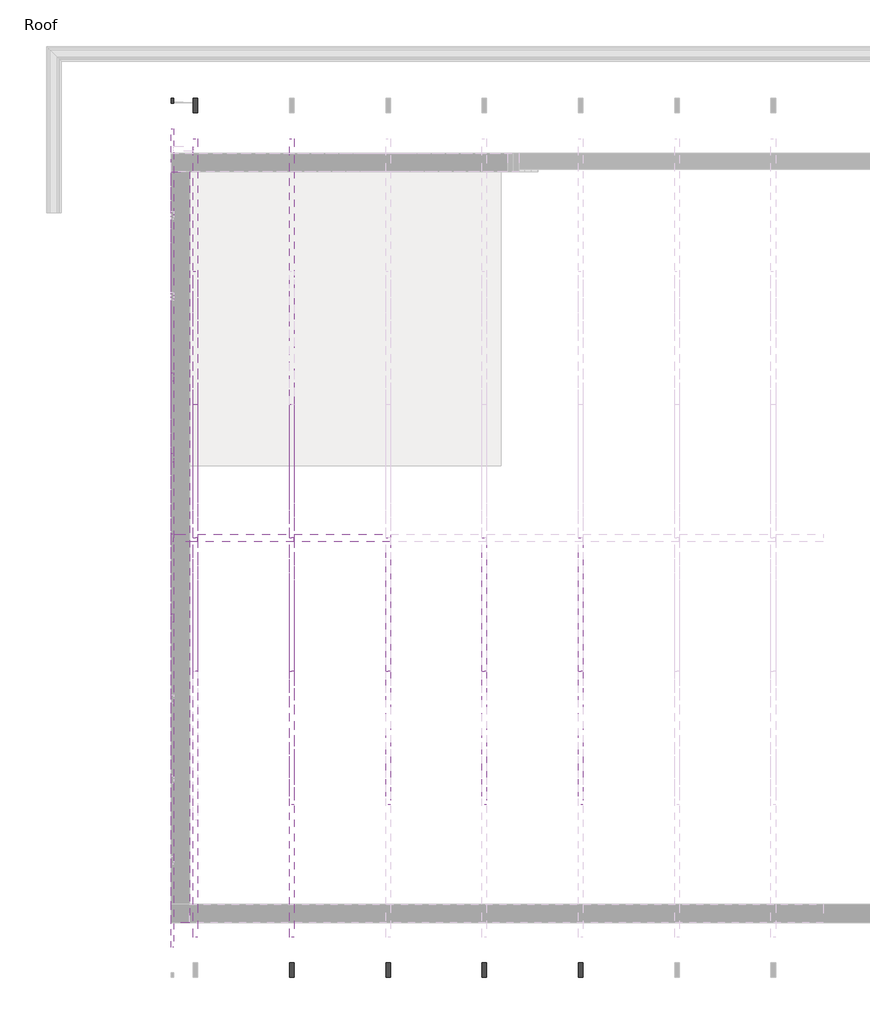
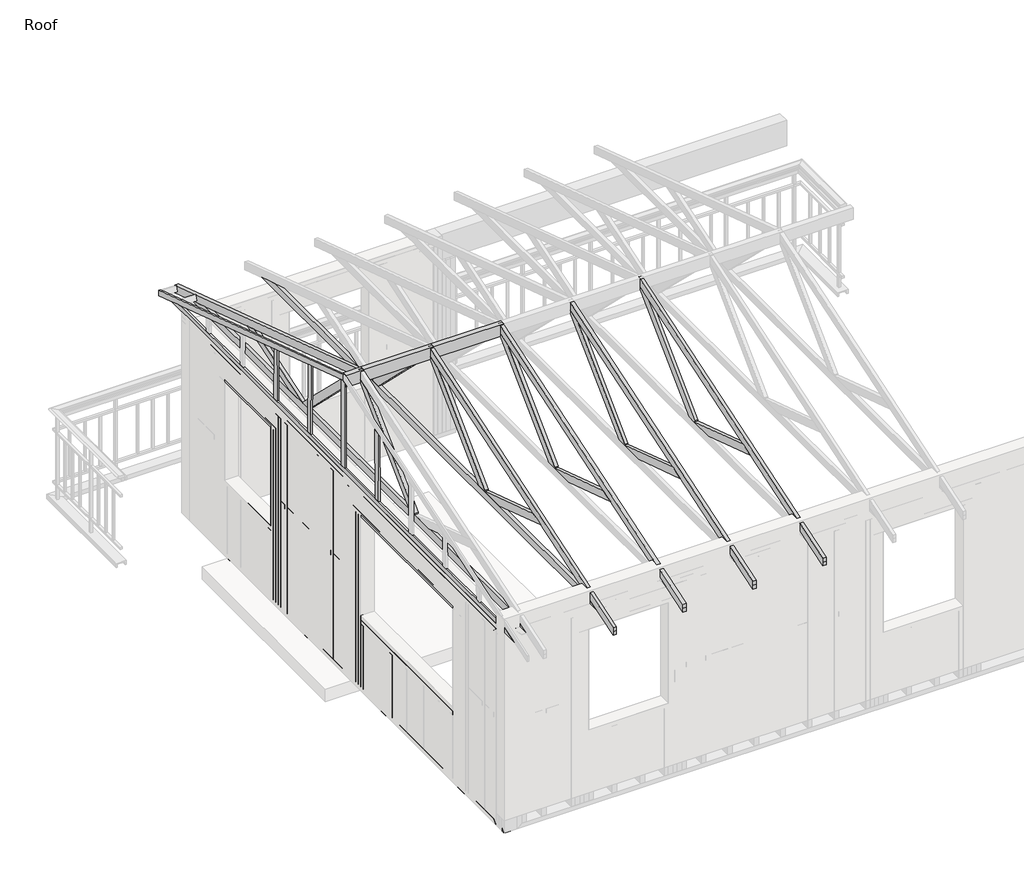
# One storey, part 3 of 6: 92 beams.
"""IFC4 building model written with IfcOpenShell, lengths in millimetres."""

from ifc_helpers import new_model, si_unit, frame, origin, place, context, project, spatial, polyline, outline, extrude, faceted_brep, transform, mapped, element, save
from components import beam_5691c770, beam_a14fae22, beam_542edc7c, experttrusspart_2_x_4_5d1fd198, experttrusspart_2_x_4_7bcd8695, beam_d06b0733, beam_b8b4d0c0, beam_1b430828, beam_c924ee9a, beam_e19e063e, beam_94f9b516, beam_558964e0, beam_b7962ac8, beam_a7231d91, beam_61d3dc7b, beam_e05c4371, beam_19b97b81, beam_7ee0b6c4, beam_9a5d82eb, beam_9d6aa0d6, beam_8976df93, beam_e5826ba7

model = new_model("IFC4")

# Units and contexts
model_context = context("Model", 3, world=origin())
ifc_project = project(units=[si_unit("LENGTHUNIT", "METRE", prefix="MILLI")], contexts=[model_context])

# Site, building, storey
site = spatial("IfcSite", under=ifc_project)
building = spatial("IfcBuilding", under=site)
storey = spatial("IfcBuildingStorey", under=building, Name="Roof", Elevation=4267.2)

# Beams
placement = place(None, origin())
element("IfcBeam", 1, ObjectType="BraceBeam : 1\" x 3\"", at=placement, inside=storey, context=model_context, shape_type="Brep", body=[
    faceted_brep([(-11529.7362948, -18302.7763369, 5454.5282605), (-11510.6862948, -18302.7763369, 5454.5282605), (-11510.6862948, -21960.3763369, 6648.3282605), (-11529.7362948, -21960.3763369, 6648.3282605), (-11510.6862948, -18302.7763369, 5487.9266302), (-11510.6862948, -18302.7763369, 5521.325), (-11510.6862948, -21960.3763369, 6715.125), (-11510.6862948, -21960.3763369, 6681.7266302), (-11529.7362948, -18302.7763369, 5521.325), (-11529.7362948, -21960.3763369, 6715.125), (-11529.7362948, -18302.7763369, 5487.9266302), (-11529.7362948, -21960.3763369, 6681.7266302)], [[[0, 1, 2, 3]], [[4, 5, 6, 7, 2, 1]], [[5, 8, 9, 6]], [[10, 0, 3, 11, 9, 8]], [[8, 5, 4, 1, 0, 10]], [[6, 9, 11, 3, 2, 7]]]),
])
element("IfcBeam", 2, ObjectType="BraceBeam : 1\" x 3\"", at=placement, inside=storey, context=model_context, shape_type="Brep", body=[
    faceted_brep([(-11510.6862948, -25364.6841988, 5537.2), (-11529.7362948, -25364.6841988, 5537.2), (-11529.7362948, -18556.068475, 5537.2), (-11510.6862948, -18556.068475, 5537.2), (-11529.7362948, -25267.4076031, 5568.95), (-11529.7362948, -25170.1310073, 5600.7), (-11529.7362948, -18750.6216665, 5600.7), (-11529.7362948, -18653.3450708, 5568.95), (-11510.6862948, -25170.1310073, 5600.7), (-11510.6862948, -18750.6216665, 5600.7), (-11510.6862948, -25267.4076031, 5568.95), (-11510.6862948, -18653.3450708, 5568.95)], [[[0, 1, 2, 3]], [[4, 5, 6, 7, 2, 1]], [[5, 8, 9, 6]], [[10, 0, 3, 11, 9, 8]], [[8, 5, 4, 1, 0, 10]], [[6, 9, 11, 3, 2, 7]]]),
])
beam_shape = beam_5691c770(model_context)
element("IfcBeam", 3, ObjectType="BraceBeam : 1\" x 3\"", at=placement, inside=storey, context=model_context, shape_type="MappedRepresentation", body=[
    mapped(beam_shape, transform((-11520.2112948, -22627.5788952, 6017.1182188), x_axis=(0.0, 0.009073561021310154, 0.9999588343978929), y_axis=(-1.0, 0.0, 0.0), z_axis=(0.0, -0.9999588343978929, 0.009073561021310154))),
])
element("IfcBeam", 4, ObjectType="BraceBeam : 1\" x 3\"", at=placement, inside=storey, context=model_context, shape_type="MappedRepresentation", body=[
    mapped(beam_shape, transform((-11520.2112948, -21293.1737787, 6017.1182188), x_axis=(0.0, -0.009073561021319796, 0.9999588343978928), y_axis=(1.0, 0.0, 0.0), z_axis=(0.0, 0.9999588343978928, 0.009073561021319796))),
])
beam_2_shape = beam_a14fae22(model_context)
element("IfcBeam", 5, ObjectType="BraceBeam : 1\" x 3\"", at=placement, inside=storey, context=model_context, shape_type="MappedRepresentation", body=[
    mapped(beam_2_shape, transform((-11520.2112948, -20621.0005721, 5907.2757582), x_axis=(0.0, -0.009347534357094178, 0.9999563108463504), y_axis=(1.0, 0.0, 0.0), z_axis=(0.0, 0.9999563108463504, 0.009347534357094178))),
])
beam_3_shape = beam_542edc7c(model_context)
element("IfcBeam", 6, ObjectType="BraceBeam : 1\" x 3\"", at=placement, inside=storey, context=model_context, shape_type="MappedRepresentation", body=[
    mapped(beam_3_shape, transform((-11520.2112948, -21959.261928, 6140.4823072), x_axis=(0.0, 0.0, 1.0), y_axis=(1.0, 1.4638300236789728e-12, 0.0), z_axis=(-1.4638300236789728e-12, 1.0, 0.0))),
])
element("IfcBeam", 7, ObjectType="ExpertTrussPart : 2 x 4", at=placement, inside=storey, context=model_context, shape_type="SweptSolid", body=[
    extrude(outline(polyline([(-21793.4464104, 6567.1254915), (-20848.8530293, 5642.2111391), (-20850.5374103, 5626.1), (-20959.4672099, 5626.1), (-21960.3763369, 6606.1568536), (-21960.3763369, 6621.6095647), (-21793.4464104, 6567.1254915)])), frame((-11346.7990766, 0.0, 0.0), z_axis=(1.0, 0.0, 0.0), x_axis=(0.0, 1.0, 0.0)), (0.0, 0.0, 1.0), 38.1),
])
element("IfcBeam", 8, ObjectType="ExpertTrussPart : 2 x 4", at=placement, inside=storey, context=model_context, shape_type="SweptSolid", body=[
    extrude(outline(polyline([(-19883.9561718, 5943.8890941), (-19812.3273277, 5920.5102353), (-19740.6984836, 5897.1313765), (-20571.0924881, 5626.1), (-20850.5374103, 5626.1), (-20850.2876203, 5628.4892463), (-19883.9561718, 5943.8890941)])), frame((-11346.7990766, 0.0, 0.0), z_axis=(1.0, 0.0, 0.0), x_axis=(0.0, 1.0, 0.0)), (0.0, 0.0, 1.0), 38.1),
])
element("IfcBeam", 9, ObjectType="ExpertTrussPart : 2 x 4", at=placement, inside=storey, context=model_context, shape_type="SweptSolid", body=[
    extrude(outline(polyline([(-22127.3062634, 6567.1254915), (-21960.3763369, 6621.6095647), (-21960.3763369, 6606.1568536), (-22961.2854639, 5626.1), (-23070.2152636, 5626.1), (-23071.8996445, 5642.2111391), (-22127.3062634, 6567.1254915)])), frame((-11346.7990766, 0.0, 0.0), z_axis=(1.0, 0.0, 0.0), x_axis=(0.0, 1.0, 0.0)), (0.0, 0.0, 1.0), 38.1),
])
element("IfcBeam", 10, ObjectType="ExpertTrussPart : 2 x 4", at=placement, inside=storey, context=model_context, shape_type="SweptSolid", body=[
    extrude(outline(polyline([(-21793.4464104, 6567.1254915), (-20848.8530293, 5642.2111391), (-20850.5374103, 5626.1), (-20959.4672099, 5626.1), (-21960.3763369, 6606.1568536), (-21960.3763369, 6621.6095647), (-21793.4464104, 6567.1254915)])), frame((-10545.0057433, 0.0, 0.0), z_axis=(1.0, 0.0, 0.0), x_axis=(0.0, 1.0, 0.0)), (0.0, 0.0, 1.0), 38.1),
])
element("IfcBeam", 11, ObjectType="ExpertTrussPart : 2 x 4", at=placement, inside=storey, context=model_context, shape_type="SweptSolid", body=[
    extrude(outline(polyline([(-22127.3062634, 6567.1254915), (-21960.3763369, 6621.6095647), (-21960.3763369, 6606.1568536), (-22961.2854639, 5626.1), (-23070.2152636, 5626.1), (-23071.8996445, 5642.2111391), (-22127.3062634, 6567.1254915)])), frame((-10545.0057433, 0.0, 0.0), z_axis=(1.0, 0.0, 0.0), x_axis=(0.0, 1.0, 0.0)), (0.0, 0.0, 1.0), 38.1),
])
element("IfcBeam", 12, ObjectType="ExpertTrussPart : 2 x 4", at=placement, inside=storey, context=model_context, shape_type="SweptSolid", body=[
    extrude(outline(polyline([(-24036.796502, 5943.8890941), (-23070.4650535, 5628.4892463), (-23070.2152636, 5626.1), (-23349.6601858, 5626.1), (-24180.0541902, 5897.1313765), (-24108.4253461, 5920.5102353), (-24036.796502, 5943.8890941)])), frame((-10545.0057433, 0.0, 0.0), z_axis=(1.0, 0.0, 0.0), x_axis=(0.0, 1.0, 0.0)), (0.0, 0.0, 1.0), 38.1),
])
element("IfcBeam", 13, ObjectType="ExpertTrussPart : 2 x 4", at=placement, inside=storey, context=model_context, shape_type="SweptSolid", body=[
    extrude(outline(polyline([(-22127.3062634, 6567.1254915), (-21960.3763369, 6621.6095647), (-21960.3763369, 6606.1568536), (-22961.2854639, 5626.1), (-23070.2152636, 5626.1), (-23071.8996445, 5642.2111391), (-22127.3062634, 6567.1254915)])), frame((-9743.2124099, 0.0, 0.0), z_axis=(1.0, 0.0, 0.0), x_axis=(0.0, 1.0, 0.0)), (0.0, 0.0, 1.0), 38.1),
])
element("IfcBeam", 14, ObjectType="ExpertTrussPart : 2 x 4", at=placement, inside=storey, context=model_context, shape_type="SweptSolid", body=[
    extrude(outline(polyline([(-24036.796502, 5943.8890941), (-23070.4650535, 5628.4892463), (-23070.2152636, 5626.1), (-23349.6601858, 5626.1), (-24180.0541902, 5897.1313765), (-24108.4253461, 5920.5102353), (-24036.796502, 5943.8890941)])), frame((-9743.2124099, 0.0, 0.0), z_axis=(1.0, 0.0, 0.0), x_axis=(0.0, 1.0, 0.0)), (0.0, 0.0, 1.0), 38.1),
])
element("IfcBeam", 15, ObjectType="ExpertTrussPart : 2 x 4", at=placement, inside=storey, context=model_context, shape_type="SweptSolid", body=[
    extrude(outline(polyline([(-22127.3062634, 6567.1254915), (-21960.3763369, 6621.6095647), (-21960.3763369, 6606.1568536), (-22961.2854639, 5626.1), (-23070.2152636, 5626.1), (-23071.8996445, 5642.2111391), (-22127.3062634, 6567.1254915)])), frame((-8941.4190766, 0.0, 0.0), z_axis=(1.0, 0.0, 0.0), x_axis=(0.0, 1.0, 0.0)), (0.0, 0.0, 1.0), 38.1),
])
element("IfcBeam", 16, ObjectType="ExpertTrussPart : 2 x 4", at=placement, inside=storey, context=model_context, shape_type="SweptSolid", body=[
    extrude(outline(polyline([(-24036.796502, 5943.8890941), (-23070.4650535, 5628.4892463), (-23070.2152636, 5626.1), (-23349.6601858, 5626.1), (-24180.0541902, 5897.1313765), (-24108.4253461, 5920.5102353), (-24036.796502, 5943.8890941)])), frame((-8941.4190766, 0.0, 0.0), z_axis=(1.0, 0.0, 0.0), x_axis=(0.0, 1.0, 0.0)), (0.0, 0.0, 1.0), 38.1),
])
element("IfcBeam", 17, ObjectType="ExpertTrussPart : 2 x 4", at=placement, inside=storey, context=model_context, shape_type="SweptSolid", body=[
    extrude(outline(polyline([(-22127.3062634, 6567.1254915), (-21960.3763369, 6621.6095647), (-21960.3763369, 6606.1568536), (-22961.2854639, 5626.1), (-23070.2152636, 5626.1), (-23071.8996445, 5642.2111391), (-22127.3062634, 6567.1254915)])), frame((-8139.6257433, 0.0, 0.0), z_axis=(1.0, 0.0, 0.0), x_axis=(0.0, 1.0, 0.0)), (0.0, 0.0, 1.0), 38.1),
])
element("IfcBeam", 18, ObjectType="ExpertTrussPart : 2 x 4", at=placement, inside=storey, context=model_context, shape_type="SweptSolid", body=[
    extrude(outline(polyline([(-24036.796502, 5943.8890941), (-23070.4650535, 5628.4892463), (-23070.2152636, 5626.1), (-23349.6601858, 5626.1), (-24180.0541902, 5897.1313765), (-24108.4253461, 5920.5102353), (-24036.796502, 5943.8890941)])), frame((-8139.6257433, 0.0, 0.0), z_axis=(1.0, 0.0, 0.0), x_axis=(0.0, 1.0, 0.0)), (0.0, 0.0, 1.0), 38.1),
])
element("IfcBeam", 19, ObjectType="ExpertTrussPart : 2 x 4", at=placement, inside=storey, context=model_context, shape_type="SweptSolid", body=[
    extrude(outline(polyline([(-21793.4464104, 6567.1254915), (-20848.8530293, 5642.2111391), (-20850.5374103, 5626.1), (-20959.4672099, 5626.1), (-21960.3763369, 6606.1568536), (-21960.3763369, 6621.6095647), (-21793.4464104, 6567.1254915)])), frame((-11346.7990766, 0.0, 0.0), z_axis=(1.0, 0.0, 0.0), x_axis=(0.0, 1.0, 0.0)), (0.0, 0.0, 1.0), 38.1),
])
element("IfcBeam", 20, ObjectType="ExpertTrussPart : 2 x 4", at=placement, inside=storey, context=model_context, shape_type="SweptSolid", body=[
    extrude(outline(polyline([(-19883.9561718, 5943.8890941), (-19812.3273277, 5920.5102353), (-19740.6984836, 5897.1313765), (-20571.0924881, 5626.1), (-20850.5374103, 5626.1), (-20850.2876203, 5628.4892463), (-19883.9561718, 5943.8890941)])), frame((-11346.7990766, 0.0, 0.0), z_axis=(1.0, 0.0, 0.0), x_axis=(0.0, 1.0, 0.0)), (0.0, 0.0, 1.0), 38.1),
])
element("IfcBeam", 21, ObjectType="ExpertTrussPart : 2 x 4", at=placement, inside=storey, context=model_context, shape_type="SweptSolid", body=[
    extrude(outline(polyline([(-22127.3062634, 6567.1254915), (-21960.3763369, 6621.6095647), (-21960.3763369, 6606.1568536), (-22961.2854639, 5626.1), (-23070.2152636, 5626.1), (-23071.8996445, 5642.2111391), (-22127.3062634, 6567.1254915)])), frame((-11346.7990766, 0.0, 0.0), z_axis=(1.0, 0.0, 0.0), x_axis=(0.0, 1.0, 0.0)), (0.0, 0.0, 1.0), 38.1),
])
element("IfcBeam", 22, ObjectType="ExpertTrussPart : 2 x 4", at=placement, inside=storey, context=model_context, shape_type="SweptSolid", body=[
    extrude(outline(polyline([(-21793.4464104, 6567.1254915), (-20848.8530293, 5642.2111391), (-20850.5374103, 5626.1), (-20959.4672099, 5626.1), (-21960.3763369, 6606.1568536), (-21960.3763369, 6621.6095647), (-21793.4464104, 6567.1254915)])), frame((-10545.0057433, 0.0, 0.0), z_axis=(1.0, 0.0, 0.0), x_axis=(0.0, 1.0, 0.0)), (0.0, 0.0, 1.0), 38.1),
])
element("IfcBeam", 23, ObjectType="ExpertTrussPart : 2 x 4", at=placement, inside=storey, context=model_context, shape_type="SweptSolid", body=[
    extrude(outline(polyline([(-22127.3062634, 6567.1254915), (-21960.3763369, 6621.6095647), (-21960.3763369, 6606.1568536), (-22961.2854639, 5626.1), (-23070.2152636, 5626.1), (-23071.8996445, 5642.2111391), (-22127.3062634, 6567.1254915)])), frame((-10545.0057433, 0.0, 0.0), z_axis=(1.0, 0.0, 0.0), x_axis=(0.0, 1.0, 0.0)), (0.0, 0.0, 1.0), 38.1),
])
element("IfcBeam", 24, ObjectType="ExpertTrussPart : 2 x 4", at=placement, inside=storey, context=model_context, shape_type="SweptSolid", body=[
    extrude(outline(polyline([(-24036.796502, 5943.8890941), (-23070.4650535, 5628.4892463), (-23070.2152636, 5626.1), (-23349.6601858, 5626.1), (-24180.0541902, 5897.1313765), (-24108.4253461, 5920.5102353), (-24036.796502, 5943.8890941)])), frame((-10545.0057433, 0.0, 0.0), z_axis=(1.0, 0.0, 0.0), x_axis=(0.0, 1.0, 0.0)), (0.0, 0.0, 1.0), 38.1),
])
element("IfcBeam", 25, ObjectType="ExpertTrussPart : 2 x 4", at=placement, inside=storey, context=model_context, shape_type="SweptSolid", body=[
    extrude(outline(polyline([(-22127.3062634, 6567.1254915), (-21960.3763369, 6621.6095647), (-21960.3763369, 6606.1568536), (-22961.2854639, 5626.1), (-23070.2152636, 5626.1), (-23071.8996445, 5642.2111391), (-22127.3062634, 6567.1254915)])), frame((-9743.2124099, 0.0, 0.0), z_axis=(1.0, 0.0, 0.0), x_axis=(0.0, 1.0, 0.0)), (0.0, 0.0, 1.0), 38.1),
])
element("IfcBeam", 26, ObjectType="ExpertTrussPart : 2 x 4", at=placement, inside=storey, context=model_context, shape_type="SweptSolid", body=[
    extrude(outline(polyline([(-24036.796502, 5943.8890941), (-23070.4650535, 5628.4892463), (-23070.2152636, 5626.1), (-23349.6601858, 5626.1), (-24180.0541902, 5897.1313765), (-24108.4253461, 5920.5102353), (-24036.796502, 5943.8890941)])), frame((-9743.2124099, 0.0, 0.0), z_axis=(1.0, 0.0, 0.0), x_axis=(0.0, 1.0, 0.0)), (0.0, 0.0, 1.0), 38.1),
])
element("IfcBeam", 27, ObjectType="ExpertTrussPart : 2 x 4", at=placement, inside=storey, context=model_context, shape_type="SweptSolid", body=[
    extrude(outline(polyline([(-22127.3062634, 6567.1254915), (-21960.3763369, 6621.6095647), (-21960.3763369, 6606.1568536), (-22961.2854639, 5626.1), (-23070.2152636, 5626.1), (-23071.8996445, 5642.2111391), (-22127.3062634, 6567.1254915)])), frame((-8941.4190766, 0.0, 0.0), z_axis=(1.0, 0.0, 0.0), x_axis=(0.0, 1.0, 0.0)), (0.0, 0.0, 1.0), 38.1),
])
element("IfcBeam", 28, ObjectType="ExpertTrussPart : 2 x 4", at=placement, inside=storey, context=model_context, shape_type="SweptSolid", body=[
    extrude(outline(polyline([(-24036.796502, 5943.8890941), (-23070.4650535, 5628.4892463), (-23070.2152636, 5626.1), (-23349.6601858, 5626.1), (-24180.0541902, 5897.1313765), (-24108.4253461, 5920.5102353), (-24036.796502, 5943.8890941)])), frame((-8941.4190766, 0.0, 0.0), z_axis=(1.0, 0.0, 0.0), x_axis=(0.0, 1.0, 0.0)), (0.0, 0.0, 1.0), 38.1),
])
element("IfcBeam", 29, ObjectType="ExpertTrussPart : 2 x 4", at=placement, inside=storey, context=model_context, shape_type="SweptSolid", body=[
    extrude(outline(polyline([(-22127.3062634, 6567.1254915), (-21960.3763369, 6621.6095647), (-21960.3763369, 6606.1568536), (-22961.2854639, 5626.1), (-23070.2152636, 5626.1), (-23071.8996445, 5642.2111391), (-22127.3062634, 6567.1254915)])), frame((-8139.6257433, 0.0, 0.0), z_axis=(1.0, 0.0, 0.0), x_axis=(0.0, 1.0, 0.0)), (0.0, 0.0, 1.0), 38.1),
])
element("IfcBeam", 30, ObjectType="ExpertTrussPart : 2 x 4", at=placement, inside=storey, context=model_context, shape_type="SweptSolid", body=[
    extrude(outline(polyline([(-24036.796502, 5943.8890941), (-23070.4650535, 5628.4892463), (-23070.2152636, 5626.1), (-23349.6601858, 5626.1), (-24180.0541902, 5897.1313765), (-24108.4253461, 5920.5102353), (-24036.796502, 5943.8890941)])), frame((-8139.6257433, 0.0, 0.0), z_axis=(1.0, 0.0, 0.0), x_axis=(0.0, 1.0, 0.0)), (0.0, 0.0, 1.0), 38.1),
])
experttrusspart_2_x_4_shape = experttrusspart_2_x_4_5d1fd198(model_context)
element("IfcBeam", 31, ObjectType="ExpertTrussPart : 2 x 4", at=placement, inside=storey, context=model_context, shape_type="MappedRepresentation", body=[
    mapped(experttrusspart_2_x_4_shape, transform((-11327.7490766, -21960.3763369, 5537.2), x_axis=(0.0, -1.0, 0.0), y_axis=(1.0, 0.0, 0.0), z_axis=(0.0, 0.0, 1.0))),
])
element("IfcBeam", 32, ObjectType="ExpertTrussPart : 2 x 4", at=placement, inside=storey, context=model_context, shape_type="MappedRepresentation", body=[
    mapped(experttrusspart_2_x_4_shape, transform((-10525.9557433, -21960.3763369, 5537.2), x_axis=(0.0, -1.0, 0.0), y_axis=(1.0, 0.0, 0.0), z_axis=(0.0, 0.0, 1.0))),
])
element("IfcBeam", 33, ObjectType="ExpertTrussPart : 2 x 4", at=placement, inside=storey, context=model_context, shape_type="MappedRepresentation", body=[
    mapped(experttrusspart_2_x_4_shape, transform((-11327.7490766, -21960.3763369, 5537.2), x_axis=(0.0, -1.0, 0.0), y_axis=(1.0, 0.0, 0.0), z_axis=(0.0, 0.0, 1.0))),
])
element("IfcBeam", 34, ObjectType="ExpertTrussPart : 2 x 4", at=placement, inside=storey, context=model_context, shape_type="MappedRepresentation", body=[
    mapped(experttrusspart_2_x_4_shape, transform((-10525.9557433, -21960.3763369, 5537.2), x_axis=(0.0, -1.0, 0.0), y_axis=(1.0, 0.0, 0.0), z_axis=(0.0, 0.0, 1.0))),
])
experttrusspart_2_x_4_2_shape = experttrusspart_2_x_4_7bcd8695(model_context)
element("IfcBeam", 35, ObjectType="ExpertTrussPart : 2 x 4", at=placement, inside=storey, context=model_context, shape_type="MappedRepresentation", body=[
    mapped(experttrusspart_2_x_4_2_shape, transform((-11327.7490766, -20145.3682843, 6029.2111031), x_axis=(0.0, 0.950645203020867, -0.3102800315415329), y_axis=(-1.0, 0.0, 0.0), z_axis=(0.0, 0.3102800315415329, 0.950645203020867))),
])
element("IfcBeam", 36, ObjectType="ExpertTrussPart : 2 x 4", at=placement, inside=storey, context=model_context, shape_type="MappedRepresentation", body=[
    mapped(experttrusspart_2_x_4_2_shape, transform((-10525.9557433, -23775.3843895, 6029.2111031), x_axis=(0.0, -0.9506452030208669, -0.310280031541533), y_axis=(1.0, 0.0, 0.0), z_axis=(0.0, -0.31028003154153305, 0.950645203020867))),
])
element("IfcBeam", 37, ObjectType="ExpertTrussPart : 2 x 4", at=placement, inside=storey, context=model_context, shape_type="MappedRepresentation", body=[
    mapped(experttrusspart_2_x_4_2_shape, transform((-9724.1624099, -23775.3843895, 6029.2111031), x_axis=(0.0, -0.9506452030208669, -0.310280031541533), y_axis=(1.0, 0.0, 0.0), z_axis=(0.0, -0.31028003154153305, 0.950645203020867))),
])
element("IfcBeam", 38, ObjectType="ExpertTrussPart : 2 x 4", at=placement, inside=storey, context=model_context, shape_type="MappedRepresentation", body=[
    mapped(experttrusspart_2_x_4_2_shape, transform((-8922.3690766, -23775.3843895, 6029.2111031), x_axis=(0.0, -0.9506452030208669, -0.310280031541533), y_axis=(1.0, 0.0, 0.0), z_axis=(0.0, -0.31028003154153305, 0.950645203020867))),
])
element("IfcBeam", 39, ObjectType="ExpertTrussPart : 2 x 4", at=placement, inside=storey, context=model_context, shape_type="MappedRepresentation", body=[
    mapped(experttrusspart_2_x_4_2_shape, transform((-8120.5757433, -23775.3843895, 6029.2111031), x_axis=(0.0, -0.9506452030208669, -0.310280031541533), y_axis=(1.0, 0.0, 0.0), z_axis=(0.0, -0.31028003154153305, 0.950645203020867))),
])
element("IfcBeam", 40, ObjectType="ExpertTrussPart : 2 x 4", at=placement, inside=storey, context=model_context, shape_type="MappedRepresentation", body=[
    mapped(experttrusspart_2_x_4_2_shape, transform((-11327.7490766, -20145.3682843, 6029.2111031), x_axis=(0.0, 0.950645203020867, -0.3102800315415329), y_axis=(-1.0, 0.0, 0.0), z_axis=(0.0, 0.3102800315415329, 0.950645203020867))),
])
element("IfcBeam", 41, ObjectType="ExpertTrussPart : 2 x 4", at=placement, inside=storey, context=model_context, shape_type="MappedRepresentation", body=[
    mapped(experttrusspart_2_x_4_2_shape, transform((-10525.9557433, -23775.3843895, 6029.2111031), x_axis=(0.0, -0.9506452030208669, -0.310280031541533), y_axis=(1.0, 0.0, 0.0), z_axis=(0.0, -0.31028003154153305, 0.950645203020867))),
])
element("IfcBeam", 42, ObjectType="ExpertTrussPart : 2 x 4", at=placement, inside=storey, context=model_context, shape_type="MappedRepresentation", body=[
    mapped(experttrusspart_2_x_4_2_shape, transform((-9724.1624099, -23775.3843895, 6029.2111031), x_axis=(0.0, -0.9506452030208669, -0.310280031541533), y_axis=(1.0, 0.0, 0.0), z_axis=(0.0, -0.31028003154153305, 0.950645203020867))),
])
element("IfcBeam", 43, ObjectType="ExpertTrussPart : 2 x 4", at=placement, inside=storey, context=model_context, shape_type="MappedRepresentation", body=[
    mapped(experttrusspart_2_x_4_2_shape, transform((-8922.3690766, -23775.3843895, 6029.2111031), x_axis=(0.0, -0.9506452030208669, -0.310280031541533), y_axis=(1.0, 0.0, 0.0), z_axis=(0.0, -0.31028003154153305, 0.950645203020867))),
])
element("IfcBeam", 44, ObjectType="ExpertTrussPart : 2 x 4", at=placement, inside=storey, context=model_context, shape_type="MappedRepresentation", body=[
    mapped(experttrusspart_2_x_4_2_shape, transform((-8120.5757433, -23775.3843895, 6029.2111031), x_axis=(0.0, -0.9506452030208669, -0.310280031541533), y_axis=(1.0, 0.0, 0.0), z_axis=(0.0, -0.31028003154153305, 0.950645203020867))),
])
element("IfcBeam", 45, ObjectType="ExpertTrussPart : 2 x 4", at=placement, inside=storey, context=model_context, shape_type="MappedRepresentation", body=[
    mapped(experttrusspart_2_x_4_2_shape, transform((-11327.7490766, -23775.3843895, 6029.2111031), x_axis=(0.0, -0.9506452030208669, -0.310280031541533), y_axis=(1.0, 0.0, 0.0), z_axis=(0.0, -0.31028003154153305, 0.950645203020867))),
])
element("IfcBeam", 46, ObjectType="Rectangular(Timber)-Beam : Timber_0' - 1 31/32\" x0' - 5 29/32\" _ContentGenerator", at=placement, inside=storey, context=model_context, shape_type="SweptSolid", body=[
    extrude(outline(polyline([(-18912.3863369, 3149.6), (-18912.3863369, 3098.8), (-25160.7813369, 3098.8), (-25109.9813369, 3149.6), (-18912.3863369, 3149.6)])), frame((-11529.6790766, 0.0, 0.0), z_axis=(1.0, 0.0, 0.0), x_axis=(0.0, 1.0, 0.0)), (0.0, 0.0, 1.0), 152.4),
])
element("IfcBeam", 47, ObjectType="Rectangular(Timber)-Beam : Timber_0' - 1 31/32\" x0' - 5 29/32\" _ContentGenerator", at=placement, inside=storey, context=model_context, shape_type="SweptSolid", body=[
    extrude(outline(polyline([(-18963.1863369, 3149.6), (-18963.1863369, 3098.8), (-25008.3863369, 3098.8), (-24957.5863369, 3149.6), (-18963.1863369, 3149.6)])), frame((-11529.6790766, 0.0, 0.0), z_axis=(1.0, 0.0, 0.0), x_axis=(0.0, 1.0, 0.0)), (0.0, 0.0, 1.0), 152.4),
])
element("IfcBeam", 48, ObjectType="Rectangular(Timber)-Beam : Timber_0' - 1 31/32\" x0' - 5 29/32\" _ContentGenerator", at=placement, inside=storey, context=model_context, shape_type="SweptSolid", body=[
    extrude(outline(polyline([(-24957.5863369, 5435.6), (-25008.3863369, 5486.4), (-18912.3763369, 5486.4), (-18912.3763369, 5435.6), (-24957.5863369, 5435.6)])), frame((-11529.6790766, 0.0, 0.0), z_axis=(1.0, 0.0, 0.0), x_axis=(0.0, 1.0, 0.0)), (0.0, 0.0, 1.0), 152.4),
])
element("IfcBeam", 49, ObjectType="Rectangular(Timber)-Beam : Timber_0' - 1 31/32\" x0' - 5 29/32\" _ContentGenerator", at=placement, inside=storey, context=model_context, shape_type="SweptSolid", body=[
    extrude(outline(polyline([(-11377.2790766, -22112.7863369), (-11377.2790766, -22163.5863369), (-11529.6790766, -22163.5863369), (-11529.6790766, -22112.7863369), (-11377.2790766, -22112.7863369)])), frame((0.0, 0.0, 3149.6), z_axis=(0.0, 0.0, 1.0), x_axis=(1.0, 0.0, 0.0)), (0.0, 0.0, 1.0), 2286.0),
])
beam_4_shape = beam_d06b0733(model_context)
element("IfcBeam", 50, ObjectType="Rectangular(Timber)-Beam : Timber_0' - 1 31/32\" x0' - 5 29/32\" _ContentGenerator", at=placement, inside=storey, context=model_context, shape_type="MappedRepresentation", body=[
    mapped(beam_4_shape, transform((-11453.4790766, -20550.6863369, 4178.3), x_axis=(0.0, 0.0, 1.0), y_axis=(0.0, -1.0, 0.0), z_axis=(1.0, 0.0, 0.0))),
])
element("IfcBeam", 51, ObjectType="Rectangular(Timber)-Beam : Timber_0' - 1 31/32\" x0' - 5 29/32\" _ContentGenerator", at=placement, inside=storey, context=model_context, shape_type="MappedRepresentation", body=[
    mapped(beam_4_shape, transform((-11453.4790766, -22290.5863369, 4178.3), x_axis=(0.0, 0.0, 1.0), y_axis=(0.0, -1.0, 0.0), z_axis=(1.0, 0.0, 0.0))),
])
element("IfcBeam", 52, ObjectType="Rectangular(Timber)-Beam : Timber_0' - 1 31/32\" x0' - 5 29/32\" _ContentGenerator", at=placement, inside=storey, context=model_context, shape_type="MappedRepresentation", body=[
    mapped(beam_4_shape, transform((-11453.4790766, -20601.4863369, 4178.3), x_axis=(0.0, 0.0, 1.0), y_axis=(0.0, -1.0, 0.0), z_axis=(1.0, 0.0, 0.0))),
])
element("IfcBeam", 53, ObjectType="Rectangular(Timber)-Beam : Timber_0' - 1 31/32\" x0' - 5 29/32\" _ContentGenerator", at=placement, inside=storey, context=model_context, shape_type="MappedRepresentation", body=[
    mapped(beam_4_shape, transform((-11453.4790766, -22239.7863369, 4178.3), x_axis=(0.0, 0.0, 1.0), y_axis=(0.0, -1.0, 0.0), z_axis=(1.0, 0.0, 0.0))),
])
element("IfcBeam", 54, ObjectType="Rectangular(Timber)-Beam : Timber_0' - 1 31/32\" x0' - 5 29/32\" _ContentGenerator", at=placement, inside=storey, context=model_context, shape_type="MappedRepresentation", body=[
    mapped(beam_4_shape, transform((-11453.4790766, -22188.9863369, 4178.3), x_axis=(0.0, 0.0, 1.0), y_axis=(0.0, -1.0, 0.0), z_axis=(1.0, 0.0, 0.0))),
])
beam_5_shape = beam_b8b4d0c0(model_context)
element("IfcBeam", 55, ObjectType="Rectangular(Timber)-Beam : Timber_0' - 1 31/32\" x0' - 5 29/32\" _ContentGenerator", at=placement, inside=storey, context=model_context, shape_type="MappedRepresentation", body=[
    mapped(beam_5_shape, transform((-11453.4790766, -20068.0863369, 5232.4), x_axis=(0.0, -1.0000000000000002, 0.0), y_axis=(0.0, 0.0, -1.0000000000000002), z_axis=(1.0000000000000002, 0.0, 0.0))),
])
beam_6_shape = beam_1b430828(model_context)
element("IfcBeam", 56, ObjectType="Rectangular(Timber)-Beam : Timber_0' - 1 31/32\" x0' - 5 29/32\" _ContentGenerator", at=placement, inside=storey, context=model_context, shape_type="MappedRepresentation", body=[
    mapped(beam_6_shape, transform((-11453.4790766, -20779.2813372, 4413.25), x_axis=(0.0, -1.0000000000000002, 0.0), y_axis=(0.0, 0.0, -1.0000000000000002), z_axis=(1.0000000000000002, 0.0, 0.0))),
])
beam_7_shape = beam_c924ee9a(model_context)
element("IfcBeam", 57, ObjectType="Rectangular(Timber)-Beam : Timber_0' - 1 31/32\" x0' - 5 29/32\" _ContentGenerator", at=placement, inside=storey, context=model_context, shape_type="MappedRepresentation", body=[
    mapped(beam_7_shape, transform((-11453.4790766, -22081.0313369, 4413.25), x_axis=(0.0, -1.0000000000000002, 0.0), y_axis=(0.0, 0.0, -1.0000000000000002), z_axis=(1.0000000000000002, 0.0, 0.0))),
])
beam_8_shape = beam_e19e063e(model_context)
element("IfcBeam", 58, ObjectType="Rectangular(Timber)-Beam : Timber_0' - 1 31/32\" x0' - 5 29/32\" _ContentGenerator", at=placement, inside=storey, context=model_context, shape_type="MappedRepresentation", body=[
    mapped(beam_8_shape, transform((-11453.4790766, -23230.3913369, 5232.4), x_axis=(0.0, -1.0000000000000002, 0.0), y_axis=(0.0, 0.0, -1.0000000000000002), z_axis=(1.0000000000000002, 0.0, 0.0))),
])
beam_9_shape = beam_94f9b516(model_context)
element("IfcBeam", 59, ObjectType="Rectangular(Timber)-Beam : Timber_0' - 1 31/32\" x0' - 5 29/32\" _ContentGenerator", at=placement, inside=storey, context=model_context, shape_type="MappedRepresentation", body=[
    mapped(beam_9_shape, transform((-11453.4790766, -22341.3863369, 3530.6), x_axis=(0.0, 0.0, 1.0), y_axis=(0.0, -1.0, 0.0), z_axis=(1.0, 0.0, 0.0))),
])
element("IfcBeam", 60, ObjectType="Rectangular(Timber)-Beam : Timber_0' - 1 31/32\" x0' - 5 29/32\" _ContentGenerator", at=placement, inside=storey, context=model_context, shape_type="MappedRepresentation", body=[
    mapped(beam_9_shape, transform((-11453.4790766, -22612.3096702, 3530.6), x_axis=(0.0, 0.0, 1.0), y_axis=(0.0, -1.0, 0.0), z_axis=(1.0, 0.0, 0.0))),
])
element("IfcBeam", 61, ObjectType="Rectangular(Timber)-Beam : Timber_0' - 1 31/32\" x0' - 5 29/32\" _ContentGenerator", at=placement, inside=storey, context=model_context, shape_type="MappedRepresentation", body=[
    mapped(beam_9_shape, transform((-11453.4790766, -22917.1130036, 3530.6), x_axis=(0.0, 0.0, 1.0), y_axis=(0.0, -1.0, 0.0), z_axis=(1.0, 0.0, 0.0))),
])
beam_10_shape = beam_558964e0(model_context)
element("IfcBeam", 62, ObjectType="Rectangular(Timber)-Beam : Timber_0' - 1 31/32\" x0' - 5 29/32\" _ContentGenerator", at=placement, inside=storey, context=model_context, shape_type="MappedRepresentation", body=[
    mapped(beam_10_shape, transform((-11453.4790766, -20830.0763369, 4292.6), x_axis=(0.0, 0.0, 1.0), y_axis=(0.0, -1.0, 0.0), z_axis=(1.0, 0.0, 0.0))),
])
element("IfcBeam", 63, ObjectType="Rectangular(Timber)-Beam : Timber_0' - 1 31/32\" x0' - 5 29/32\" _ContentGenerator", at=placement, inside=storey, context=model_context, shape_type="MappedRepresentation", body=[
    mapped(beam_10_shape, transform((-11453.4790766, -21134.8763369, 4292.6), x_axis=(0.0, 0.0, 1.0), y_axis=(0.0, -1.0, 0.0), z_axis=(1.0, 0.0, 0.0))),
])
element("IfcBeam", 64, ObjectType="Rectangular(Timber)-Beam : Timber_0' - 1 31/32\" x0' - 5 29/32\" _ContentGenerator", at=placement, inside=storey, context=model_context, shape_type="MappedRepresentation", body=[
    mapped(beam_10_shape, transform((-11453.4790766, -21439.6763369, 4292.6), x_axis=(0.0, 0.0, 1.0), y_axis=(0.0, -1.0, 0.0), z_axis=(1.0, 0.0, 0.0))),
])
element("IfcBeam", 65, ObjectType="Rectangular(Timber)-Beam : Timber_0' - 1 31/32\" x0' - 5 29/32\" _ContentGenerator", at=placement, inside=storey, context=model_context, shape_type="MappedRepresentation", body=[
    mapped(beam_10_shape, transform((-11453.4790766, -21744.4763369, 4292.6), x_axis=(0.0, 0.0, 1.0), y_axis=(0.0, -1.0, 0.0), z_axis=(1.0, 0.0, 0.0))),
])
element("IfcBeam", 66, ObjectType="Rectangular(Timber)-Beam : Timber_0' - 1 31/32\" x0' - 5 29/32\" _ContentGenerator", at=placement, inside=storey, context=model_context, shape_type="MappedRepresentation", body=[
    mapped(beam_10_shape, transform((-11453.4790766, -22049.2763369, 4292.6), x_axis=(0.0, 0.0, 1.0), y_axis=(0.0, -1.0, 0.0), z_axis=(1.0, 0.0, 0.0))),
])
element("IfcBeam", 67, ObjectType="Rectangular(Timber)-Beam : Timber_0' - 1 31/32\" x0' - 5 29/32\" _ContentGenerator", at=placement, inside=storey, context=model_context, shape_type="MappedRepresentation", body=[
    mapped(beam_10_shape, transform((-11453.4790766, -20652.2863369, 4292.6), x_axis=(0.0, 0.0, 1.0), y_axis=(0.0, -1.0, 0.0), z_axis=(1.0, 0.0, 0.0))),
])
element("IfcBeam", 68, ObjectType="Rectangular(Timber)-Beam : Timber_0' - 1 31/32\" x0' - 5 29/32\" _ContentGenerator", at=placement, inside=storey, context=model_context, shape_type="MappedRepresentation", body=[
    mapped(beam_10_shape, transform((-11453.4790766, -20703.0863375, 4292.6), x_axis=(0.0, 0.0, 1.0), y_axis=(0.0, -1.0, 0.0), z_axis=(1.0, 0.0, 0.0))),
])
beam_11_shape = beam_b7962ac8(model_context)
element("IfcBeam", 69, ObjectType="Rectangular(Timber)-Beam : Timber_0' - 1 31/32\" x0' - 5 29/32\" _ContentGenerator", at=placement, inside=storey, context=model_context, shape_type="MappedRepresentation", body=[
    mapped(beam_11_shape, transform((-11453.4790766, -20228.9430036, 3556.0), x_axis=(0.0, 0.0, 1.0), y_axis=(0.0, -1.0, 0.0), z_axis=(1.0, 0.0, 0.0))),
])
element("IfcBeam", 70, ObjectType="Rectangular(Timber)-Beam : Timber_0' - 1 31/32\" x0' - 5 29/32\" _ContentGenerator", at=placement, inside=storey, context=model_context, shape_type="MappedRepresentation", body=[
    mapped(beam_11_shape, transform((-11453.4790766, -20228.9430036, 3556.0), x_axis=(0.0, 0.0, 1.0), y_axis=(0.0, -1.0, 0.0), z_axis=(1.0, 0.0, 0.0))),
])
beam_12_shape = beam_a7231d91(model_context)
element("IfcBeam", 71, ObjectType="Rectangular(Timber)-Beam : Timber_0' - 1 31/32\" x0' - 5 29/32\" _ContentGenerator", at=placement, inside=storey, context=model_context, shape_type="MappedRepresentation", body=[
    mapped(beam_12_shape, transform((-11402.6790766, -20068.0763369, 5359.4), x_axis=(0.0, -1.0, 0.0), y_axis=(1.0, 0.0, 0.0), z_axis=(0.0, 0.0, 1.0))),
])
element("IfcBeam", 72, ObjectType="Rectangular(Timber)-Beam : Timber_0' - 1 31/32\" x0' - 5 29/32\" _ContentGenerator", at=placement, inside=storey, context=model_context, shape_type="MappedRepresentation", body=[
    mapped(beam_12_shape, transform((-11402.6790766, -22773.1763369, 5359.4), x_axis=(0.0, -1.0, 0.0), y_axis=(1.0, 0.0, 0.0), z_axis=(0.0, 0.0, 1.0))),
])
element("IfcBeam", 73, ObjectType="Rectangular(Timber)-Beam : Timber_0' - 1 31/32\" x0' - 5 29/32\" _ContentGenerator", at=placement, inside=storey, context=model_context, shape_type="MappedRepresentation", body=[
    mapped(beam_12_shape, transform((-11402.6790766, -20068.0763369, 5359.4), x_axis=(0.0, -1.0, 0.0), y_axis=(1.0, 0.0, 0.0), z_axis=(0.0, 0.0, 1.0))),
])
beam_13_shape = beam_61d3dc7b(model_context)
element("IfcBeam", 74, ObjectType="Rectangular(Timber)-Beam : Timber_0' - 1 31/32\" x0' - 5 29/32\" _ContentGenerator", at=placement, inside=storey, context=model_context, shape_type="MappedRepresentation", body=[
    mapped(beam_13_shape, transform((-11453.4790766, -22036.5763369, 5511.8), x_axis=(0.0, -1.0000000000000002, 0.0), y_axis=(0.0, 0.0, -1.0000000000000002), z_axis=(1.0000000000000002, 0.0, 0.0))),
])
beam_14_shape = beam_e05c4371(model_context)
element("IfcBeam", 75, ObjectType="Rectangular(Timber)-Beam : Timber_0' - 1 31/32\" x0' - 5 29/32\" _ContentGenerator", at=placement, inside=storey, context=model_context, shape_type="MappedRepresentation", body=[
    mapped(beam_14_shape, transform((-11453.4790766, -20068.0863369, 3987.8), x_axis=(0.0, -1.0000000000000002, 0.0), y_axis=(0.0, 0.0, -1.0000000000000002), z_axis=(1.0000000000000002, 0.0, 0.0))),
])
beam_15_shape = beam_19b97b81(model_context)
element("IfcBeam", 76, ObjectType="Rectangular(Timber)-Beam : Timber_0' - 1 31/32\" x0' - 5 29/32\" _ContentGenerator", at=placement, inside=storey, context=model_context, shape_type="MappedRepresentation", body=[
    mapped(beam_15_shape, transform((-11453.4790766, -20982.4763369, 4413.25), x_axis=(0.0, -1.0000000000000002, 0.0), y_axis=(0.0, 0.0, -1.0000000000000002), z_axis=(1.0000000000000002, 0.0, 0.0))),
])
element("IfcBeam", 77, ObjectType="Rectangular(Timber)-Beam : Timber_0' - 1 31/32\" x0' - 5 29/32\" _ContentGenerator", at=placement, inside=storey, context=model_context, shape_type="MappedRepresentation", body=[
    mapped(beam_15_shape, transform((-11453.4790766, -21287.2763369, 4413.25), x_axis=(0.0, -1.0000000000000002, 0.0), y_axis=(0.0, 0.0, -1.0000000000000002), z_axis=(1.0000000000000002, 0.0, 0.0))),
])
element("IfcBeam", 78, ObjectType="Rectangular(Timber)-Beam : Timber_0' - 1 31/32\" x0' - 5 29/32\" _ContentGenerator", at=placement, inside=storey, context=model_context, shape_type="MappedRepresentation", body=[
    mapped(beam_15_shape, transform((-11453.4790766, -21592.0763369, 4413.25), x_axis=(0.0, -1.0000000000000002, 0.0), y_axis=(0.0, 0.0, -1.0000000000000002), z_axis=(1.0000000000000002, 0.0, 0.0))),
])
element("IfcBeam", 79, ObjectType="Rectangular(Timber)-Beam : Timber_0' - 1 31/32\" x0' - 5 29/32\" _ContentGenerator", at=placement, inside=storey, context=model_context, shape_type="MappedRepresentation", body=[
    mapped(beam_15_shape, transform((-11453.4790766, -21896.8763369, 4413.25), x_axis=(0.0, -1.0000000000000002, 0.0), y_axis=(0.0, 0.0, -1.0000000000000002), z_axis=(1.0000000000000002, 0.0, 0.0))),
])
element("IfcBeam", 80, ObjectType="Rectangular(Timber)-Beam : Timber_0' - 1 31/32\" x0' - 5 29/32\" _ContentGenerator", at=placement, inside=storey, context=model_context, shape_type="MappedRepresentation", body=[
    mapped(beam_11_shape, transform((-11453.4790766, -20499.8863369, 3556.0), x_axis=(0.0, 0.0, 1.0), y_axis=(0.0, -1.0, 0.0), z_axis=(1.0, 0.0, 0.0))),
])
element("IfcBeam", 81, ObjectType="Rectangular(Timber)-Beam : Timber_0' - 1 31/32\" x0' - 5 29/32\" _ContentGenerator", at=placement, inside=storey, context=model_context, shape_type="MappedRepresentation", body=[
    mapped(beam_11_shape, transform((-11453.4790766, -20499.8863369, 3556.0), x_axis=(0.0, 0.0, 1.0), y_axis=(0.0, -1.0, 0.0), z_axis=(1.0, 0.0, 0.0))),
])
beam_16_shape = beam_7ee0b6c4(model_context)
element("IfcBeam", 82, ObjectType="Rectangular(Timber)-Beam : Timber_0' - 1 31/32\" x0' - 5 29/32\" _ContentGenerator", at=placement, inside=storey, context=model_context, shape_type="MappedRepresentation", body=[
    mapped(beam_16_shape, transform((-11453.4790766, -23230.3913369, 3937.0), x_axis=(0.0, -1.0000000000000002, 0.0), y_axis=(0.0, 0.0, -1.0000000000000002), z_axis=(1.0000000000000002, 0.0, 0.0))),
])
element("IfcBeam", 83, ObjectType="WallPlates : 6\" x 3\"", at=placement, inside=storey, context=model_context, shape_type="SweptSolid", body=[
    extrude(outline(polyline([(-10506.9057433, -21992.1263369), (-10506.9057433, -21928.6263369), (-9705.1124099, -21928.6263369), (-9705.1124099, -21992.1263369), (-10506.9057433, -21992.1263369)])), frame((0.0, 0.0, 6575.425), z_axis=(0.0, 0.0, 1.0), x_axis=(1.0, 0.0, 0.0)), (0.0, 0.0, 1.0), 139.7),
])
element("IfcBeam", 84, ObjectType="WallPlates : 6\" x 3\"", at=placement, inside=storey, context=model_context, shape_type="SweptSolid", body=[
    extrude(outline(polyline([(-11308.6990766, -21992.1263369), (-11308.6990766, -21928.6263369), (-10506.9057433, -21928.6263369), (-10506.9057433, -21992.1263369), (-11308.6990766, -21992.1263369)])), frame((0.0, 0.0, 6575.425), z_axis=(0.0, 0.0, 1.0), x_axis=(1.0, 0.0, 0.0)), (0.0, 0.0, 1.0), 139.7),
])
element("IfcBeam", 85, ObjectType="WallPlates : 6\" x 3\"", at=placement, inside=storey, context=model_context, shape_type="SweptSolid", body=[
    extrude(outline(polyline([(-11510.6862948, -21992.1263369), (-11510.6862948, -21928.6263369), (-11308.6990766, -21928.6263369), (-11308.6990766, -21992.1263369), (-11510.6862948, -21992.1263369)])), frame((0.0, 0.0, 6575.425), z_axis=(0.0, 0.0, 1.0), x_axis=(1.0, 0.0, 0.0)), (0.0, 0.0, 1.0), 139.7),
])
beam_17_shape = beam_9a5d82eb(model_context)
element("IfcBeam", 86, ObjectType="WallPlates : 6\" x 3\"", at=placement, inside=storey, context=model_context, shape_type="MappedRepresentation", body=[
    mapped(beam_17_shape, transform((-11494.7540766, -20741.1813369, 4318.0), x_axis=(0.0, -1.0000000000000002, 0.0), y_axis=(0.0, 0.0, -1.0000000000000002), z_axis=(1.0000000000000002, 0.0, 0.0))),
])
beam_18_shape = beam_9d6aa0d6(model_context)
element("IfcBeam", 87, ObjectType="WallPlates : 6\" x 3\"", at=placement, inside=storey, context=model_context, shape_type="MappedRepresentation", body=[
    mapped(beam_18_shape, transform((-11494.7540766, -21007.8763369, 4318.0), x_axis=(0.0, -1.0000000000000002, 0.0), y_axis=(0.0, 0.0, -1.0000000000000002), z_axis=(1.0000000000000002, 0.0, 0.0))),
])
element("IfcBeam", 88, ObjectType="WallPlates : 6\" x 3\"", at=placement, inside=storey, context=model_context, shape_type="MappedRepresentation", body=[
    mapped(beam_18_shape, transform((-11494.7540766, -21312.6763369, 4318.0), x_axis=(0.0, -1.0000000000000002, 0.0), y_axis=(0.0, 0.0, -1.0000000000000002), z_axis=(1.0000000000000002, 0.0, 0.0))),
])
element("IfcBeam", 89, ObjectType="WallPlates : 6\" x 3\"", at=placement, inside=storey, context=model_context, shape_type="MappedRepresentation", body=[
    mapped(beam_18_shape, transform((-11494.7540766, -21617.4763369, 4318.0), x_axis=(0.0, -1.0000000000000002, 0.0), y_axis=(0.0, 0.0, -1.0000000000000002), z_axis=(1.0000000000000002, 0.0, 0.0))),
])
element("IfcBeam", 90, ObjectType="WallPlates : 6\" x 3\"", at=placement, inside=storey, context=model_context, shape_type="MappedRepresentation", body=[
    mapped(beam_18_shape, transform((-11494.7540766, -21922.2763369, 4318.0), x_axis=(0.0, -1.0000000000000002, 0.0), y_axis=(0.0, 0.0, -1.0000000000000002), z_axis=(1.0000000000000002, 0.0, 0.0))),
])
beam_19_shape = beam_8976df93(model_context)
element("IfcBeam", 91, ObjectType="WallPlates : 6\" x 3\"", at=placement, inside=storey, context=model_context, shape_type="MappedRepresentation", body=[
    mapped(beam_19_shape, transform((-11494.7540766, -22144.5313369, 4318.0), x_axis=(0.0, -1.0000000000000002, 0.0), y_axis=(0.0, 0.0, -1.0000000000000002), z_axis=(1.0000000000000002, 0.0, 0.0))),
])
beam_20_shape = beam_e5826ba7(model_context)
element("IfcBeam", 92, ObjectType="WallPlates : 8\" x 2\"", at=placement, inside=storey, context=model_context, shape_type="MappedRepresentation", body=[
    mapped(beam_20_shape, transform((-11504.2790766, -20068.0863369, 5346.7), x_axis=(0.0, -1.0, 0.0), y_axis=(0.0, 0.0, -1.0), z_axis=(1.0, 0.0, 0.0))),
])

save(model, "model.ifc")
